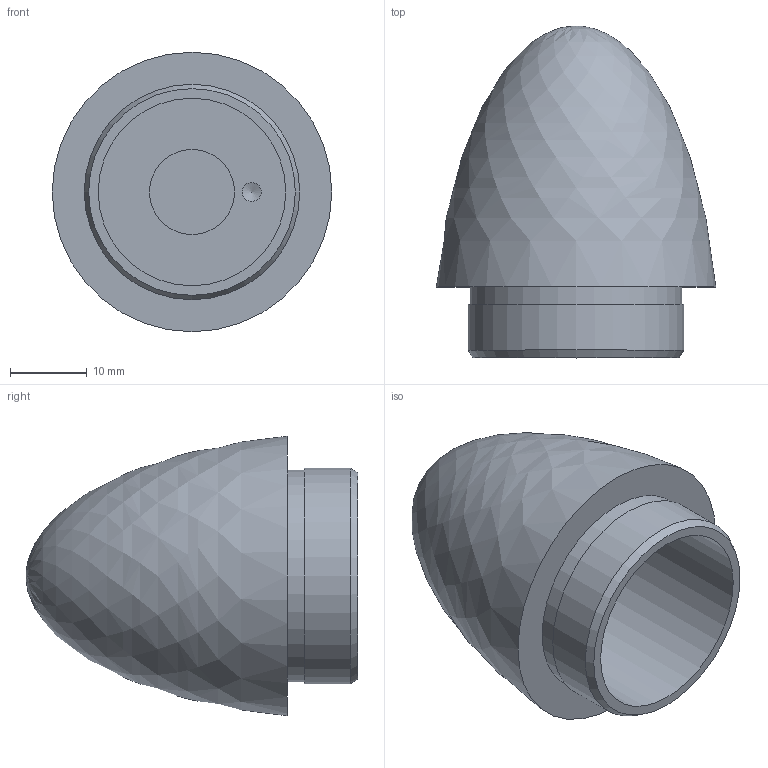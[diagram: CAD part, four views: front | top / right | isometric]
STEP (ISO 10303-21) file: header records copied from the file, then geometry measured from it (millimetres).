
FILE_DESCRIPTION(('FreeCAD Model'),'2;1');
FILE_NAME('Open CASCADE Shape Model','2026-11-12T12:36:16',('FreeCAD'),( 'FreeCAD'),'Open CASCADE STEP processor 7.8','FreeCAD','Unknown');
FILE_SCHEMA(('AUTOMOTIVE_DESIGN { 1 0 10303 214 1 1 1 1 }'));
Length unit declared in the file: millimetre
Products named in the file (1): Open CASCADE STEP translator 7.8 2
Bounding box: 36.51 x 43.35 x 36.51 mm (x, y, z)
Volume: 14927 mm3; surface area: 7488.1 mm2
Topology: 1 solids, 1 shells, 13 faces, 23 edges, 15 vertices
Faces by surface type: plane 5, cylinder 5, cone 2, revolution 1
Full cylindrical faces by diameter (mm): 2.5 x1, 11.1 x1, 24.5 x1, 27.6 x1, 28.16 x1
Entity records: 445 total; most frequent: CARTESIAN_POINT 175, DIRECTION 60, ORIENTED_EDGE 42, AXIS2_PLACEMENT_3D 26, EDGE_CURVE 21, FACE_BOUND 18, EDGE_LOOP 18, VERTEX_POINT 15
